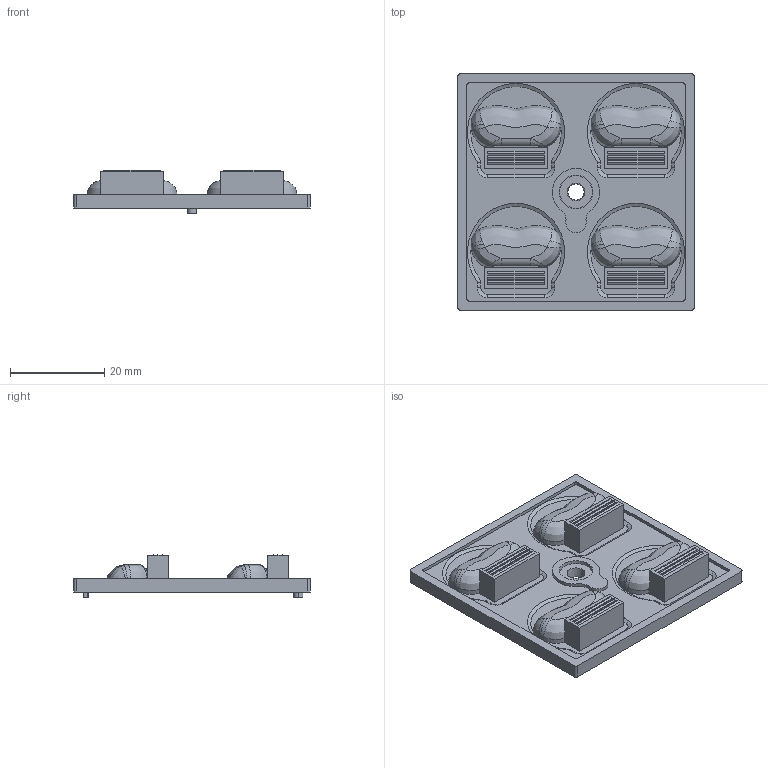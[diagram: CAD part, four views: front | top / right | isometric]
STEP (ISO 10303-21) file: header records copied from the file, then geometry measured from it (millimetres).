
FILE_DESCRIPTION(('Creo Elements/Direct Modeling STEP Export'),'2;1');
FILE_NAME('95505.stp','2022-05-18T14:46:09',(''),(''),'Creo Elements/Direct Modeling STEP processor for AP214 (Solid Model)','Creo Elements/Direct Modeling 20.1B 02-Apr-2019 (C) Parametric Technology GmbH','');
FILE_SCHEMA(('AUTOMOTIVE_DESIGN { 1 0 10303 214 1 1 1 1 }'));
Products named in the file (2): 95505
Assembly tree (1 placements, depth 2):
  95505
    95505
Bounding box: 50 x 50 x 9.19 mm (x, y, z)
Volume: 7871 mm3; surface area: 7128.6 mm2
Topology: 1 solids, 1 shells, 517 faces, 1375 edges, 897 vertices
Faces by surface type: plane 314, cylinder 99, bspline 40, cone 32, extrusion 24, sphere 8
Entity records: 40177 total; most frequent: CARTESIAN_POINT 27105, ORIENTED_EDGE 2734, DIRECTION 2162, EDGE_CURVE 1367, VERTEX_POINT 897, VECTOR 894, LINE 870, AXIS2_PLACEMENT_3D 634
